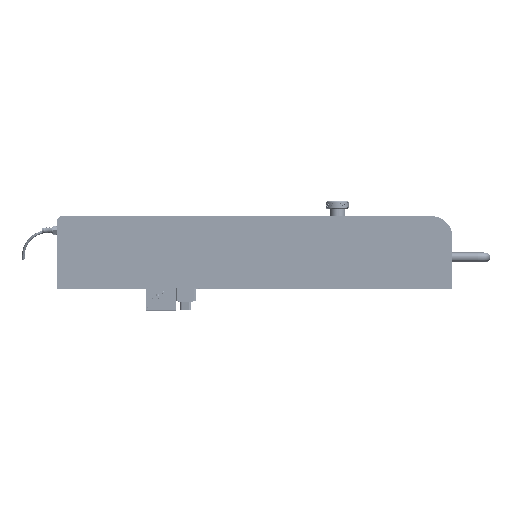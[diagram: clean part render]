
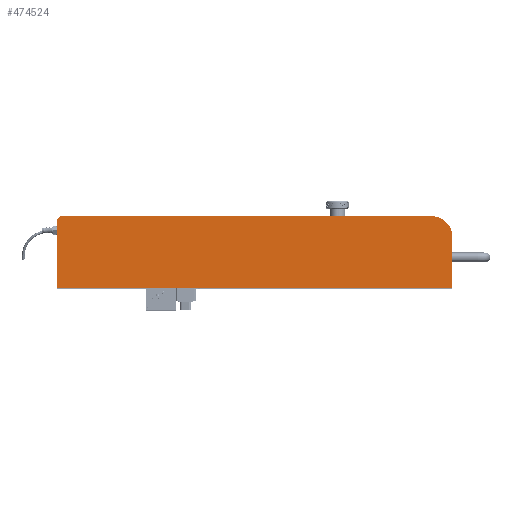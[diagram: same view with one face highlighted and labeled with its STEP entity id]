
A CAD part, top view. The second image highlights one B-rep face of the part: STEP entity #474524.
In plain terms, the highlighted planar face has unit normal (0, 0, 1).
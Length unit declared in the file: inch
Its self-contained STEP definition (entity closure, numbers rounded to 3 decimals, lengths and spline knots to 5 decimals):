
#3906 = EDGE_CURVE ( 'NONE', #222878, #119857, #412160, .T. ) ;
#7834 = VECTOR ( 'NONE', #197959, 39.37008 ) ;
#25002 = VECTOR ( 'NONE', #25158, 39.37008 ) ;
#25158 = DIRECTION ( 'NONE',  ( 1., 0., 0. ) ) ;
#26294 = CARTESIAN_POINT ( 'NONE',  ( 0.2875, 1.932, 0.099 ) ) ;
#55258 = CARTESIAN_POINT ( 'NONE',  ( -12.755, 1.932, 0.099 ) ) ;
#79809 = CARTESIAN_POINT ( 'NONE',  ( -12.755, 1.932, 0.099 ) ) ;
#85227 = EDGE_CURVE ( 'NONE', #145745, #381097, #333469, .T. ) ;
#89190 = ORIENTED_EDGE ( 'NONE', *, *, #145064, .T. ) ;
#93251 = DIRECTION ( 'NONE',  ( 0., -1., 0. ) ) ;
#119857 = VERTEX_POINT ( 'NONE', #301568 ) ;
#128743 = LINE ( 'NONE', #55258, #353383 ) ;
#133393 = CARTESIAN_POINT ( 'NONE',  ( -12.755, 1.932, 0.099 ) ) ;
#145064 = EDGE_CURVE ( 'NONE', #222878, #381097, #547695, .T. ) ;
#145745 = VERTEX_POINT ( 'NONE', #242893 ) ;
#165281 = VERTEX_POINT ( 'NONE', #431809 ) ;
#178669 = CARTESIAN_POINT ( 'NONE',  ( 0.2875, 1.2445, 0.099 ) ) ;
#188068 = CARTESIAN_POINT ( 'NONE',  ( -0.4, 1.932, 0.099 ) ) ;
#191240 = ORIENTED_EDGE ( 'NONE', *, *, #476150, .T. ) ;
#197959 = DIRECTION ( 'NONE',  ( 0., -1., 0. ) ) ;
#222878 = VERTEX_POINT ( 'NONE', #178669 ) ;
#242893 = CARTESIAN_POINT ( 'NONE',  ( -12.645, 1.932, 0.099 ) ) ;
#257444 = VECTOR ( 'NONE', #291138, 39.37008 ) ;
#266519 = DIRECTION ( 'NONE',  ( 0., -1., 0. ) ) ;
#275447 = ORIENTED_EDGE ( 'NONE', *, *, #538802, .T. ) ;
#288875 = EDGE_LOOP ( 'NONE', ( #327637, #296977, #191240, #275447, #473107, #89190 ) ) ;
#291138 = DIRECTION ( 'NONE',  ( 1., 0., 0. ) ) ;
#293621 = CARTESIAN_POINT ( 'NONE',  ( -12.755, -0.425, 0.099 ) ) ;
#296977 = ORIENTED_EDGE ( 'NONE', *, *, #303684, .T. ) ;
#301568 = CARTESIAN_POINT ( 'NONE',  ( 0.2875, -0.425, 0.099 ) ) ;
#303684 = EDGE_CURVE ( 'NONE', #145745, #165281, #305582, .T. ) ;
#305582 = LINE ( 'NONE', #308331, #496336 ) ;
#308331 = CARTESIAN_POINT ( 'NONE',  ( -12.7, 1.877, 0.099 ) ) ;
#311806 = VERTEX_POINT ( 'NONE', #293621 ) ;
#314041 = AXIS2_PLACEMENT_3D ( 'NONE', #515812, #476497, #93251 ) ;
#327637 = ORIENTED_EDGE ( 'NONE', *, *, #85227, .F. ) ;
#333469 = LINE ( 'NONE', #79809, #257444 ) ;
#344862 = DIRECTION ( 'NONE',  ( 0., -1., 0. ) ) ;
#351800 = AXIS2_PLACEMENT_3D ( 'NONE', #133393, #516484, #344862 ) ;
#353383 = VECTOR ( 'NONE', #266519, 39.37008 ) ;
#376015 = FACE_OUTER_BOUND ( 'NONE', #288875, .T. ) ;
#381097 = VERTEX_POINT ( 'NONE', #188068 ) ;
#412160 = LINE ( 'NONE', #26294, #7834 ) ;
#431809 = CARTESIAN_POINT ( 'NONE',  ( -12.755, 1.822, 0.099 ) ) ;
#463415 = PLANE ( 'NONE',  #351800 ) ;
#473107 = ORIENTED_EDGE ( 'NONE', *, *, #3906, .F. ) ;
#474524 = ADVANCED_FACE ( 'NONE', ( #376015 ), #463415, .T. ) ;
#476150 = EDGE_CURVE ( 'NONE', #165281, #311806, #128743, .T. ) ;
#476497 = DIRECTION ( 'NONE',  ( 0., 0., 1. ) ) ;
#480046 = DIRECTION ( 'NONE',  ( -0.707, -0.707, 0. ) ) ;
#496336 = VECTOR ( 'NONE', #480046, 39.37008 ) ;
#501081 = CARTESIAN_POINT ( 'NONE',  ( -12.755, -0.425, 0.099 ) ) ;
#515812 = CARTESIAN_POINT ( 'NONE',  ( -0.4, 1.2445, 0.099 ) ) ;
#516484 = DIRECTION ( 'NONE',  ( 0., 0., 1. ) ) ;
#538802 = EDGE_CURVE ( 'NONE', #311806, #119857, #543108, .T. ) ;
#543108 = LINE ( 'NONE', #501081, #25002 ) ;
#547695 = CIRCLE ( 'NONE', #314041, 0.6875 ) ;
